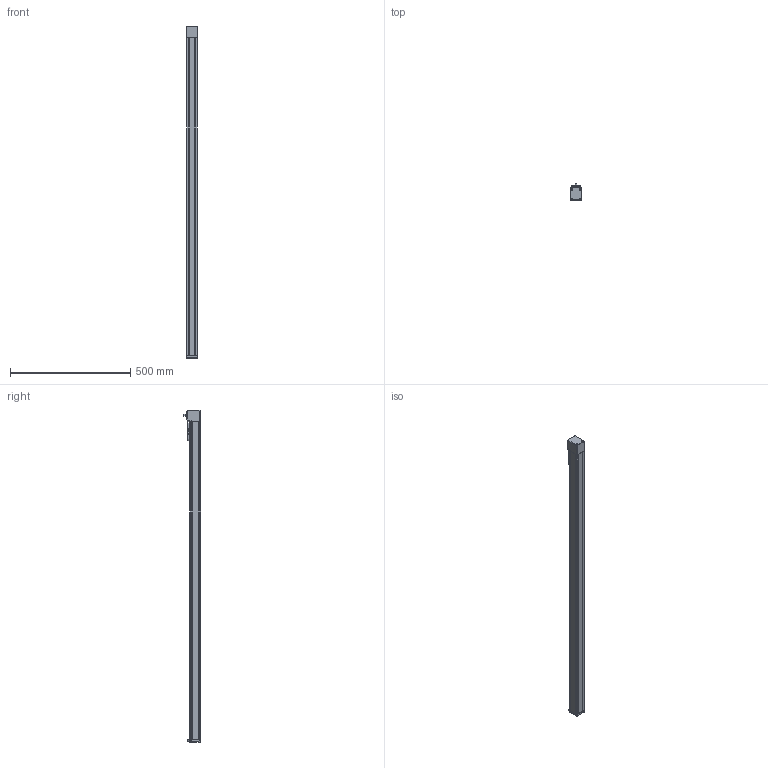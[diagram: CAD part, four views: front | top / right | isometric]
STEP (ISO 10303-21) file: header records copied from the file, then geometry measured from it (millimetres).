
FILE_DESCRIPTION(/* description */ ('STEP AP203'),/* implementation_level */ '2;1');
FILE_NAME(/* name */ 'MGTB 45 1200(0)',/* time_stamp */ '2023-04-17T14:34:11+02:00',/* author */ ('License CC BY-ND 4.0'),/* organization */ ('CADENAS'),/* preprocessor_version */ 'ST-DEVELOPER v19.3',/* originating_system */ 'PARTsolutions',/* authorisation */ ' ');
FILE_SCHEMA (('CONFIG_CONTROL_DESIGN'));
Length unit declared in the file: millimetre
Products named in the file (6): MGTB 45 1200(0); MGTB 45 1200_protection_strip; MGTB 45_carriage; MGTB 45_end_block; MGTB 45 1200_profile; MGTB 45_drive_block
Assembly tree (5 placements, depth 2):
  MGTB 45 1200(0)
    MGTB 45 1200_protection_strip
    MGTB 45_carriage
    MGTB 45_end_block
    MGTB 45 1200_profile
    MGTB 45_drive_block
Bounding box: 45 x 70.85 x 1383 mm (x, y, z)
Volume: 2685586.7 mm3; surface area: 411831.6 mm2
Topology: 5 solids, 5 shells, 689 faces, 1789 edges, 1148 vertices
Faces by surface type: plane 324, cylinder 173, cone 95, bspline 68, torus 27, sphere 2
Full cylindrical faces by diameter (mm): 1.755 x4, 2.459 x10, 2.5 x6, 3 x6, 3.242 x8, 3.8 x6, 4 x2, 4.5 x2, 5.5 x4, 6.5 x4, 8 x1, 11 x3, 12 x1, 17.12 x1, 17.5 x1, 22.5 x1, 22.88 x1, 24.5 x1, 28 x1, 34 x2
Entity records: 25091 total; most frequent: CARTESIAN_POINT 4283, DIRECTION 3440, ORIENTED_EDGE 3206, EDGE_CURVE 1603, AXIS2_PLACEMENT_3D 1244, VERTEX_POINT 1133, LINE 952, VECTOR 952
